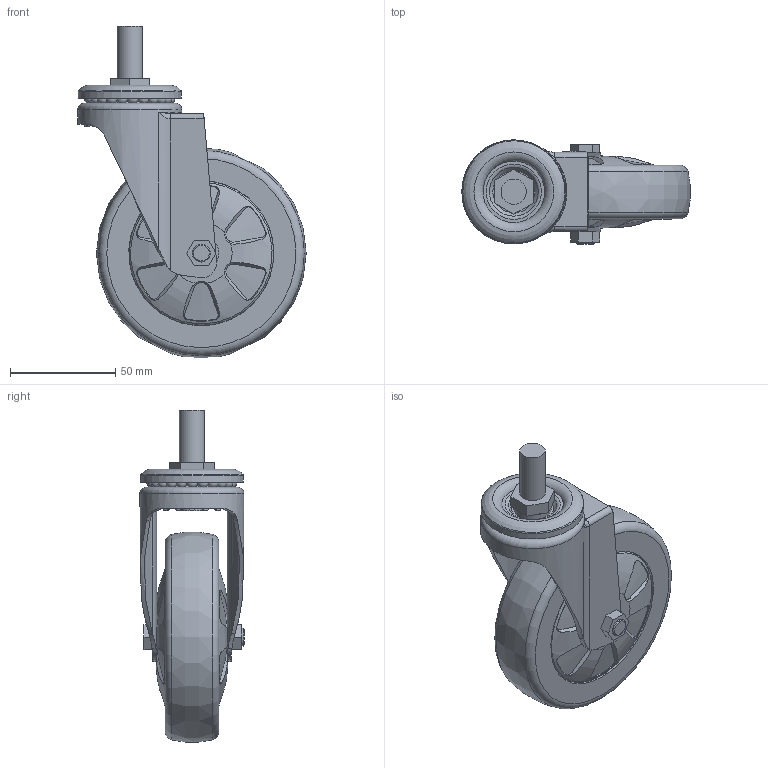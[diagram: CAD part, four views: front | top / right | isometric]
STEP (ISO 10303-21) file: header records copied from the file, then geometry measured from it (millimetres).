
FILE_DESCRIPTION(/* description */ (''),/* implementation_level */ '2;1');
FILE_NAME(/* name */ '20C32_4_F.stp',/* time_stamp */ '2022-10-06T15:27:18+08:00',/* author */ (''),/* organization */ (''),/* preprocessor_version */ 'ST-DEVELOPER v14',/* originating_system */ 'SIEMENS PLM Software NX 8.0',/* authorisation */ '');
FILE_SCHEMA (('AUTOMOTIVE_DESIGN { 1 0 10303 214 3 1 1 1 }'));
Length unit declared in the file: millimetre
Products named in the file (1): 20C32_4_F
Bounding box: 108.62 x 49.55 x 157.87 mm (x, y, z)
Volume: 200954.7 mm3; surface area: 79024.4 mm2
Topology: 1 solids, 5 shells, 765 faces, 2207 edges, 1446 vertices
Faces by surface type: plane 336, bspline 147, cylinder 122, torus 72, cone 55, sphere 33
Full cylindrical faces by diameter (mm): 8.466 x1, 8.5 x1, 10 x3, 12 x1, 12.2 x1, 15 x1, 16.667 x3, 18 x1, 23.333 x2, 24.05 x1, 25 x1, 25.5 x2, 28.56 x1, 45 x1, 45.5 x1, 49 x1, 49.5 x1
Entity records: 34760 total; most frequent: CARTESIAN_POINT 17870, ORIENTED_EDGE 3966, DIRECTION 2687, EDGE_CURVE 1983, VERTEX_POINT 1338, AXIS2_PLACEMENT_3D 1027, EDGE_LOOP 903, B_SPLINE_CURVE_WITH_KNOTS 869
